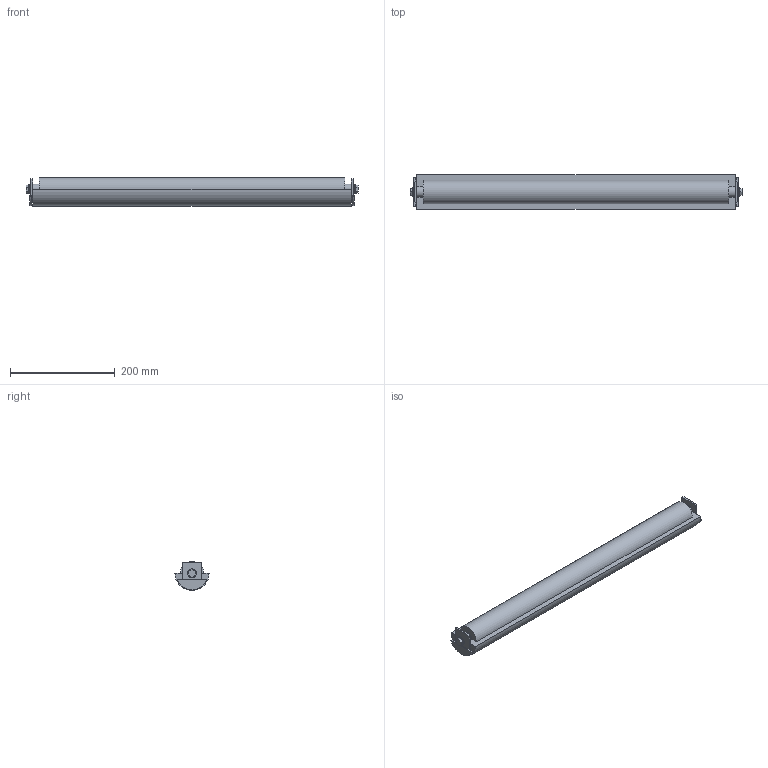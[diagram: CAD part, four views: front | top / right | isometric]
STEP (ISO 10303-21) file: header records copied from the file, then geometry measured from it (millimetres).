
FILE_DESCRIPTION (( 'STEP AP214' ), '1' );
FILE_NAME ('03.102I01.620.N FS-620-MTS2-100.INOX Idler section.STEP', '2025-02-11T11:28:50', ( '' ), ( '' ), 'SwSTEP 2.0', 'SolidWorks 2024', '' );
FILE_SCHEMA (( 'AUTOMOTIVE_DESIGN' ));
Length unit declared in the file: millimetre
Products named in the file (1): 03.102I01.620.N FS-620-MTS2-100.INOX Idler section
Bounding box: 634.8 x 65.4 x 55.2 mm (x, y, z)
Volume: 1509913.6 mm3; surface area: 130243 mm2
Topology: 1 solids, 1 shells, 64 faces, 164 edges, 108 vertices
Faces by surface type: plane 40, cylinder 24
Entity records: 1967 total; most frequent: DIRECTION 342, CARTESIAN_POINT 337, ORIENTED_EDGE 328, EDGE_CURVE 164, VECTOR 116, LINE 116, AXIS2_PLACEMENT_3D 113, VERTEX_POINT 108
